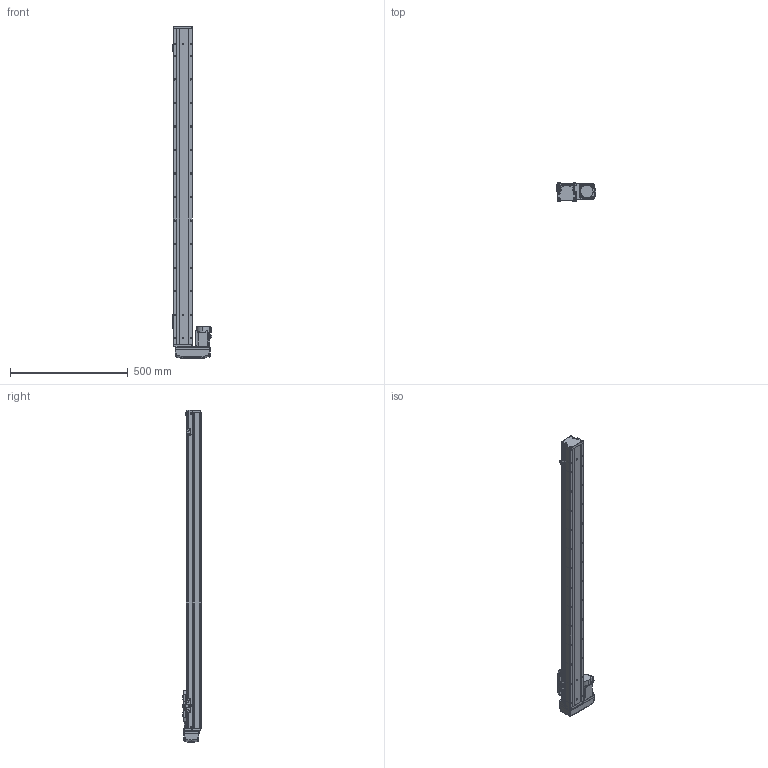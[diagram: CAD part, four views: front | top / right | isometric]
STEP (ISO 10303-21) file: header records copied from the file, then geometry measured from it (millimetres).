
FILE_DESCRIPTION (( 'STEP AP203' ), '1' );
FILE_NAME ('GTH8-1150-BR-M20-C4.step', '2023-08-28T01:00:34', ( '微软用户' ), ( '微软中国' ), 'SwSTEP 2.0', 'SolidWorks 2020', '' );
FILE_SCHEMA (( 'CONFIG_CONTROL_DESIGN' ));
Length unit declared in the file: millimetre
Products named in the file (18): GBT 70.3-M3℅6; GBT96.1-2002 3×0.8; GTH80-022; BTH-M3X5X6; GTH80-001_1150; GBT 70.1-M3℅6; CTHA86-015-1_CTHA86-015-2; GTH80-003; GBT 70.1-M4×16; CTHA86-033_M40B; GTH80-004; GTH80-028; 三菱伺服电机[HG-KN23J-S100]; GTH80-006; GTH50-024; GTH8-1150-BR-M20-C4; GTH80-013; GTH50-023
Assembly tree (57 placements, depth 2):
  GTH8-1150-BR-M20-C4
    GTH80-001_1150
    GTH80-003
    GTH80-004
    GTH80-006
    GTH80-013
    GBT 70.3-M3℅6  x4
    GTH80-022
    GBT 70.1-M3℅6  x14
    GBT 70.1-M4×16  x8
    GTH80-028  x2
    GTH50-024  x3
    GTH50-023  x3
    GBT96.1-2002 3×0.8  x6
    BTH-M3X5X6  x8
    CTHA86-015-1_CTHA86-015-2
    CTHA86-033_M40B
    三菱伺服电机[HG-KN23J-S100]
Bounding box: 169.7 x 78 x 1411 mm (x, y, z)
Volume: 6717825.6 mm3; surface area: 642250.4 mm2
Topology: 59 solids, 59 shells, 2212 faces, 5161 edges, 3173 vertices
Faces by surface type: plane 1151, cylinder 627, cone 260, torus 158, bspline 8, sphere 8
Entity records: 42343 total; most frequent: CARTESIAN_POINT 9299, DIRECTION 6296, ORIENTED_EDGE 6140, EDGE_CURVE 3070, AXIS2_PLACEMENT_3D 2178, VERTEX_POINT 1948, LINE 1940, VECTOR 1940
